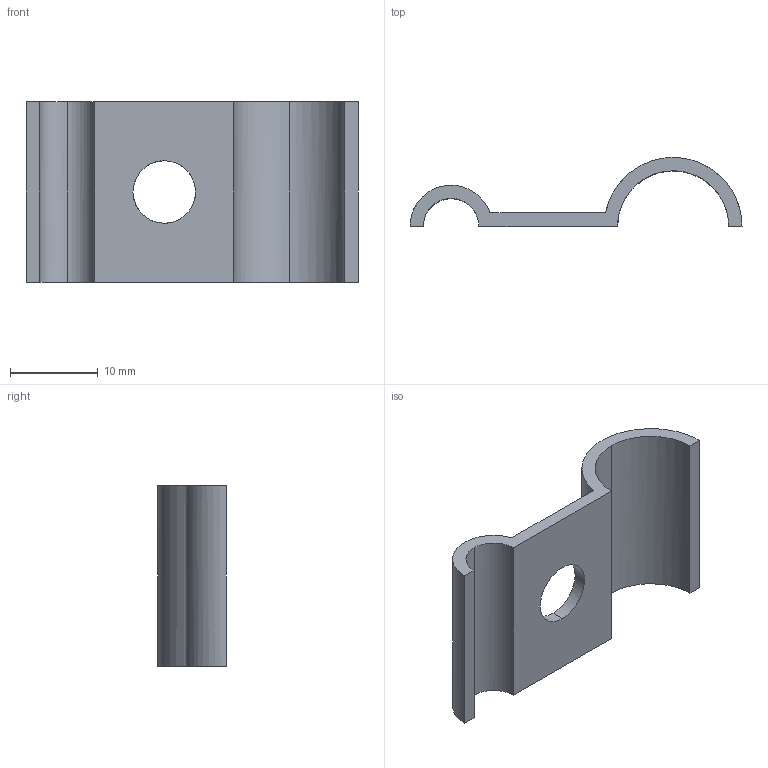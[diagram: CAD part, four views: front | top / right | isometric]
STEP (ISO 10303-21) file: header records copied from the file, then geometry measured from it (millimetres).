
FILE_DESCRIPTION(('TurboCAD Mac Pro'),'Build 980');
FILE_NAME('P6809.stp',' ',(''),(''),'ACIS Interop','IMSI','TurboCAD Mac Pro BY IMSI, INCORPORATED');
FILE_SCHEMA(('automotive_design'));
Length unit declared in the file: inch
Products named in the file (1): 1
Bounding box: 37.94 x 7.87 x 20.64 mm (x, y, z)
Volume: 1435.8 mm3; surface area: 2130.2 mm2
Topology: 1 solids, 1 shells, 18 faces, 48 edges, 32 vertices
Faces by surface type: bspline 12, plane 6
Entity records: 796 total; most frequent: CARTESIAN_POINT 255, ORIENTED_EDGE 96, EDGE_CURVE 48, DIRECTION 38, VERTEX_POINT 32, B_SPLINE_CURVE_WITH_KNOTS 24, LINE 24, VECTOR 24
